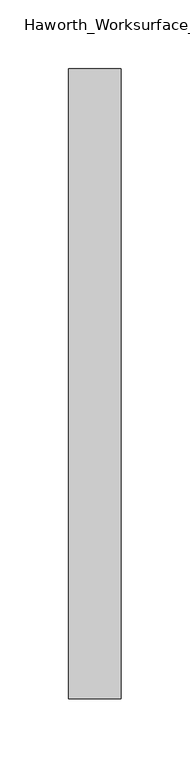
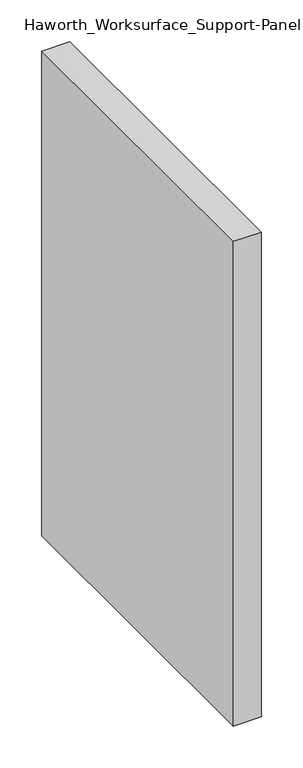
"""IFC4 building model written with IfcOpenShell, lengths in millimetres: furniture geometry."""

from ifc_helpers import new_model, si_unit, origin, origin_with_axes, place, context, project, spatial, polyline, outline, extrude, source, transform, mapped, element, save


def furniture_e126ca14(model_context):
    return source(origin(), model_context, "Body", "SweptSolid", [
        extrude(outline(polyline([(234.95, 181.2465234), (234.95, -275.9534766), (196.85, -275.9534766), (196.85, 181.2465234), (234.95, 181.2465234)])), origin_with_axes(), (0.0, 0.0, 1.0), 706.4375),
    ])


if __name__ == "__main__":
    model = new_model("IFC4")
    model_context = context("Model", 3, world=origin())
    ifc_project = project(units=[si_unit("LENGTHUNIT", "METRE", prefix="MILLI")], contexts=[model_context])
    site = spatial("IfcSite", under=ifc_project)
    building = spatial("IfcBuilding", under=site)
    placement = place(None, origin())
    furniture_shape = furniture_e126ca14(model_context)
    element("IfcFurniture", 1, ObjectType="Haworth_Worksurface_Support-Panel : 18\" Depth", at=placement, inside=building, context=model_context, shape_type="MappedRepresentation", body=[
        mapped(furniture_shape, transform((0.0, 0.0, 0.0), x_axis=(1.0, 0.0, 0.0), y_axis=(0.0, 1.0, 0.0), z_axis=(0.0, 0.0, 1.0))),
    ])
    save(model, "model.ifc")
